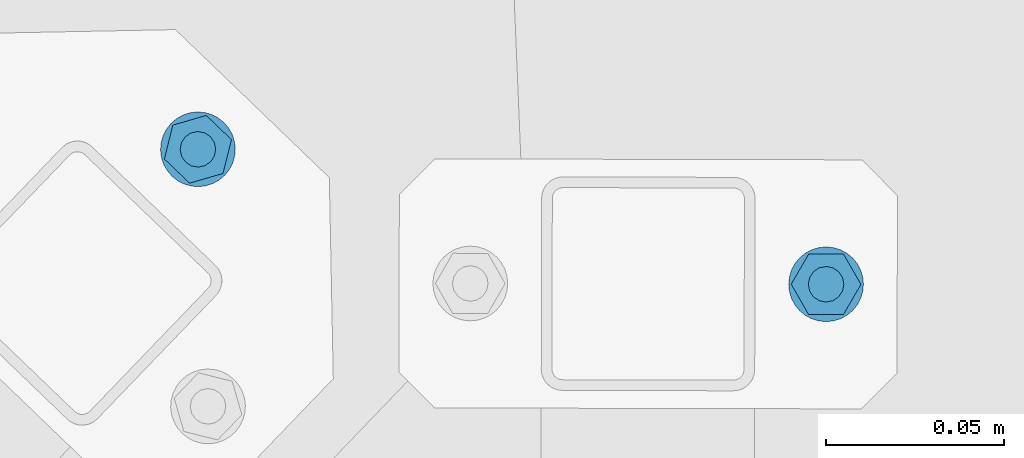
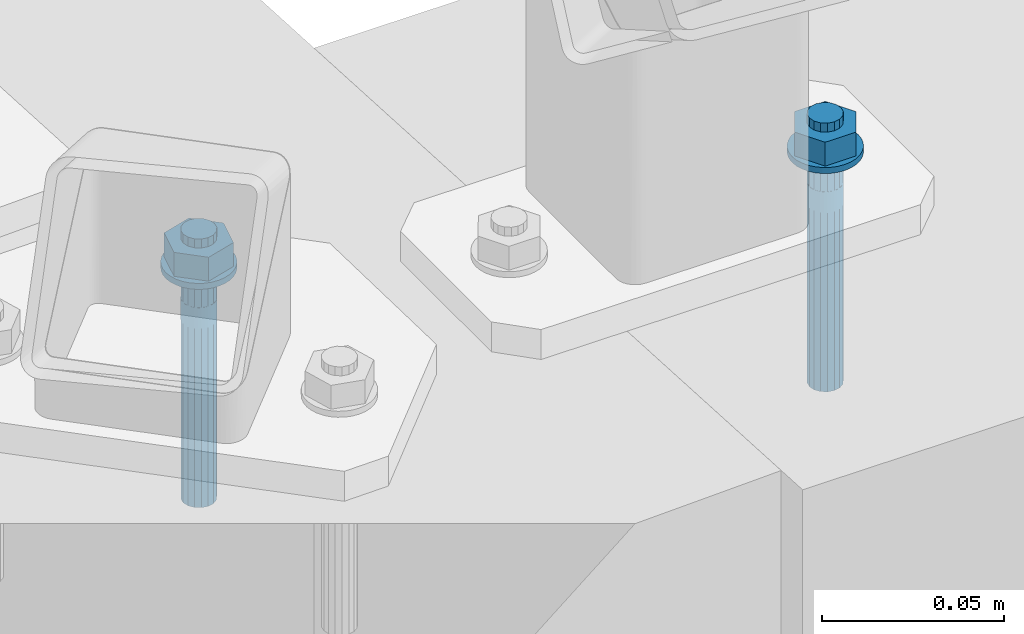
# One storey, part 200 of 288: 2 mechanical fasteners.
"""IFC2X3 building model written with IfcOpenShell, lengths in millimetres."""

from ifc_helpers import new_model, entity, si_unit, converted_unit, origin_with_axes, place, context, project, spatial, faceted_brep, element, save


model = new_model("IFC2X3")

# Units and contexts
model_context = context("Model", 3, precision=1e-09, world=origin_with_axes())
ifc_project = project(units=[si_unit("LENGTHUNIT", "METRE", prefix="MILLI"), si_unit("AREAUNIT", "SQUARE_METRE"), si_unit("VOLUMEUNIT", "CUBIC_METRE"), converted_unit("PLANEANGLEUNIT", "DEGREE", entity("IfcPlaneAngleMeasure", 0.01745329), si_unit("PLANEANGLEUNIT", "RADIAN"), dimensions=[0, 0, 0, 0, 0, 0, 0])], contexts=[model_context])

# Site, building, storey
site_placement = place(None, origin_with_axes())
site = spatial("IfcSite", under=ifc_project, at=site_placement, Name="Remont ?wietlik?w nad MC w NCPP w Opolu", CompositionType="ELEMENT")
building_placement = place(site_placement, origin_with_axes())
building = spatial("IfcBuilding", under=site, at=building_placement, Name="Konstrukcja 1", CompositionType="ELEMENT")
storey_placement = place(building_placement, origin_with_axes())
storey = spatial("IfcBuildingStorey", under=building, at=storey_placement, Name="Default Storey", CompositionType="ELEMENT", Elevation=0.0)

# Mechanical fasteners
mechanical_fastener_1_placement = place(None, origin_with_axes())
element("IfcMechanicalFastener", 1, at=mechanical_fastener_1_placement, inside=storey, ObjectType="-", NominalDiameter=10.0, NominalLength=90.0, context=model_context, shape_type="Brep", body=[
    faceted_brep([(1833.809125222, 1910.677145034, 12.000000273), (1833.809125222, 1910.677145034, 10.000000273), (1835.425703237, 1909.402970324, 10.000000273), (1835.425703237, 1909.402970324, 12.000000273), (1837.259798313, 1908.468657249, 10.000000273), (1837.259798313, 1908.468657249, 12.000000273), (1839.240927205, 1907.910110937, 10.000000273), (1839.240927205, 1907.910110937, 12.000000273), (1841.292956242, 1907.748796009, 10.000000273), (1841.292956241, 1907.748796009, 12.000000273), (1843.337027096, 1907.990911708, 10.000000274), (1843.337027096, 1907.990911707, 12.000000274), (1845.294587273, 1908.627153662, 10.000000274), (1845.294587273, 1908.627153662, 12.000000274), (1847.090408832, 1909.633071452, 10.000000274), (1847.090408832, 1909.633071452, 12.000000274), (1848.655479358, 1910.970008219, 10.000000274), (1848.655479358, 1910.970008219, 12.000000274), (1849.929654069, 1912.586586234, 10.000000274), (1849.929654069, 1912.586586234, 12.000000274), (1850.863967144, 1914.42068131, 10.000000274), (1850.863967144, 1914.42068131, 12.000000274), (1851.422513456, 1916.401810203, 10.000000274), (1851.422513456, 1916.401810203, 12.000000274), (1851.583828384, 1918.453839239, 10.000000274), (1851.583828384, 1918.453839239, 12.000000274), (1851.341712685, 1920.497910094, 10.000000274), (1851.341712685, 1920.497910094, 12.000000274), (1850.70547073, 1922.45547027, 10.000000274), (1850.70547073, 1922.45547027, 12.000000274), (1849.699552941, 1924.25129183, 10.000000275), (1849.699552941, 1924.25129183, 12.000000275), (1848.362616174, 1925.816362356, 10.000000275), (1848.362616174, 1925.816362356, 12.000000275), (1846.746038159, 1927.090537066, 10.000000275), (1846.746038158, 1927.090537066, 12.000000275), (1844.911943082, 1928.024850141, 10.000000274), (1844.911943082, 1928.024850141, 12.000000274), (1842.93081419, 1928.583396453, 10.000000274), (1842.93081419, 1928.583396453, 12.000000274), (1840.878785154, 1928.744711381, 10.000000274), (1840.878785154, 1928.744711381, 12.000000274), (1838.834714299, 1928.502595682, 10.000000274), (1838.834714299, 1928.502595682, 12.000000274), (1836.877154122, 1927.866353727, 10.000000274), (1836.877154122, 1927.866353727, 12.000000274), (1835.081332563, 1926.860435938, 10.000000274), (1835.081332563, 1926.860435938, 12.000000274), (1833.516262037, 1925.523499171, 10.000000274), (1833.516262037, 1925.523499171, 12.000000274), (1832.242087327, 1923.906921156, 10.000000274), (1832.242087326, 1923.906921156, 12.000000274), (1831.307774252, 1922.072826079, 10.000000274), (1831.307774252, 1922.072826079, 12.000000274), (1830.749227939, 1920.091697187, 10.000000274), (1830.749227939, 1920.091697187, 12.000000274), (1830.587913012, 1918.039668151, 10.000000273), (1830.587913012, 1918.039668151, 12.000000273), (1830.83002871, 1915.995597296, 10.000000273), (1830.83002871, 1915.995597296, 12.000000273), (1831.466270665, 1914.038037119, 10.000000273), (1831.466270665, 1914.038037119, 12.000000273), (1832.472188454, 1912.24221556, 10.000000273), (1832.472188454, 1912.24221556, 12.000000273)], [[[0, 1, 2, 3]], [[3, 2, 4, 5]], [[5, 4, 6, 7]], [[7, 6, 8, 9]], [[9, 8, 10, 11]], [[11, 10, 12, 13]], [[13, 12, 14, 15]], [[15, 14, 16, 17]], [[17, 16, 18, 19]], [[19, 18, 20, 21]], [[21, 20, 22, 23]], [[23, 22, 24, 25]], [[25, 24, 26, 27]], [[27, 26, 28, 29]], [[29, 28, 30, 31]], [[31, 30, 32, 33]], [[33, 32, 34, 35]], [[35, 34, 36, 37]], [[37, 36, 38, 39]], [[39, 38, 40, 41]], [[41, 40, 42, 43]], [[43, 42, 44, 45]], [[45, 44, 46, 47]], [[47, 46, 48, 49]], [[49, 48, 50, 51]], [[51, 50, 52, 53]], [[53, 52, 54, 55]], [[55, 54, 56, 57]], [[57, 56, 58, 59]], [[59, 58, 60, 61]], [[61, 60, 62, 63]], [[63, 62, 1, 0]], [[0, 3, 5, 7, 9, 11, 13, 15, 17, 19, 21, 23, 25, 27, 29, 31, 33, 35, 37, 39, 41, 43, 45, 47, 49, 51, 53, 55, 57, 59, 61, 63]], [[1, 62, 60, 58, 56, 54, 52, 50, 48, 46, 44, 42, 40, 38, 36, 34, 32, 30, 28, 26, 24, 22, 20, 18, 16, 14, 12, 10, 8, 6, 4, 2]]]),
    faceted_brep([(1850.500078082, 1920.969380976, 12.000000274), (1850.500078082, 1920.969380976, 20.000000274), (1848.150838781, 1911.455124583, 20.000000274), (1848.150838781, 1911.455124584, 12.000000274), (1838.736631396, 1908.732497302, 20.000000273), (1838.736631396, 1908.732497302, 12.000000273), (1831.671663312, 1915.524126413, 20.000000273), (1831.671663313, 1915.524126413, 12.000000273), (1834.020902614, 1925.038382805, 20.000000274), (1834.020902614, 1925.038382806, 12.000000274), (1843.435109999, 1927.761010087, 20.000000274), (1843.435109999, 1927.761010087, 12.000000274)], [[[0, 1, 2, 3]], [[3, 2, 4, 5]], [[5, 4, 6, 7]], [[7, 6, 8, 9]], [[9, 8, 10, 11]], [[11, 10, 1, 0]], [[4, 2, 1, 10, 8, 6]], [[0, 3, 5, 7, 9, 11]]]),
    faceted_brep([(1837.620753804, 1914.642178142, 23.000000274), (1837.620753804, 1914.642178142, 20.000000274), (1839.263931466, 1913.590517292, 20.000000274), (1839.263931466, 1913.590517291, 23.000000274), (1841.184482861, 1913.247726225, 20.000000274), (1841.184482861, 1913.247726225, 23.000000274), (1843.090021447, 1913.665991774, 20.000000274), (1843.090021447, 1913.665991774, 23.000000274), (1844.69044625, 1914.781636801, 20.000000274), (1844.69044625, 1914.781636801, 23.000000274), (1845.7421071, 1916.424814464, 20.000000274), (1845.7421071, 1916.424814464, 23.000000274), (1846.084898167, 1918.345365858, 20.000000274), (1846.084898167, 1918.345365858, 23.000000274), (1845.666632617, 1920.250904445, 20.000000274), (1845.666632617, 1920.250904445, 23.000000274), (1844.550987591, 1921.851329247, 20.000000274), (1844.55098759, 1921.851329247, 23.000000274), (1842.907809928, 1922.902990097, 20.000000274), (1842.907809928, 1922.902990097, 23.000000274), (1840.987258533, 1923.245781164, 20.000000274), (1840.987258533, 1923.245781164, 23.000000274), (1839.081719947, 1922.827515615, 20.000000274), (1839.081719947, 1922.827515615, 23.000000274), (1837.481295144, 1921.711870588, 20.000000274), (1837.481295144, 1921.711870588, 23.000000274), (1836.429634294, 1920.068692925, 20.000000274), (1836.429634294, 1920.068692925, 23.000000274), (1836.086843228, 1918.148141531, 20.000000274), (1836.086843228, 1918.148141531, 23.000000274), (1836.505108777, 1916.242602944, 20.000000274), (1836.505108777, 1916.242602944, 23.000000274)], [[[0, 1, 2, 3]], [[3, 2, 4, 5]], [[5, 4, 6, 7]], [[7, 6, 8, 9]], [[9, 8, 10, 11]], [[11, 10, 12, 13]], [[13, 12, 14, 15]], [[15, 14, 16, 17]], [[17, 16, 18, 19]], [[19, 18, 20, 21]], [[21, 20, 22, 23]], [[23, 22, 24, 25]], [[25, 24, 26, 27]], [[27, 26, 28, 29]], [[29, 28, 30, 31]], [[31, 30, 1, 0]], [[0, 3, 5, 7, 9, 11, 13, 15, 17, 19, 21, 23, 25, 27, 29, 31]], [[1, 30, 28, 26, 24, 22, 20, 18, 16, 14, 12, 10, 8, 6, 4, 2]]]),
    faceted_brep([(1837.620753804, 1914.642178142, 10.000000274), (1837.620753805, 1914.642178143, 1.8e-08), (1839.263931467, 1913.590517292, 1.8e-08), (1839.263931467, 1913.590517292, 10.000000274), (1841.184482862, 1913.247726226, 1.8e-08), (1841.184482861, 1913.247726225, 10.000000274), (1843.090021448, 1913.665991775, 1.8e-08), (1843.090021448, 1913.665991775, 10.000000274), (1844.690446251, 1914.781636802, 1.8e-08), (1844.69044625, 1914.781636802, 10.000000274), (1845.742107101, 1916.424814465, 1.8e-08), (1845.7421071, 1916.424814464, 10.000000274), (1846.084898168, 1918.345365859, 1.8e-08), (1846.084898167, 1918.345365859, 10.000000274), (1845.666632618, 1920.250904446, 1.8e-08), (1845.666632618, 1920.250904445, 10.000000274), (1844.550987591, 1921.851329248, 1.8e-08), (1844.550987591, 1921.851329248, 10.000000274), (1842.907809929, 1922.902990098, 1.8e-08), (1842.907809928, 1922.902990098, 10.000000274), (1840.987258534, 1923.245781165, 1.8e-08), (1840.987258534, 1923.245781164, 10.000000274), (1839.081719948, 1922.827515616, 1.8e-08), (1839.081719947, 1922.827515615, 10.000000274), (1837.481295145, 1921.711870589, 1.8e-08), (1837.481295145, 1921.711870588, 10.000000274), (1836.429634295, 1920.068692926, 1.8e-08), (1836.429634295, 1920.068692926, 10.000000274), (1836.086843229, 1918.148141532, 1.8e-08), (1836.086843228, 1918.148141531, 10.000000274), (1836.505108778, 1916.242602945, 1.8e-08), (1836.505108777, 1916.242602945, 10.000000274)], [[[0, 1, 2, 3]], [[3, 2, 4, 5]], [[5, 4, 6, 7]], [[7, 6, 8, 9]], [[9, 8, 10, 11]], [[11, 10, 12, 13]], [[13, 12, 14, 15]], [[15, 14, 16, 17]], [[17, 16, 18, 19]], [[19, 18, 20, 21]], [[21, 20, 22, 23]], [[23, 22, 24, 25]], [[25, 24, 26, 27]], [[27, 26, 28, 29]], [[29, 28, 30, 31]], [[31, 30, 1, 0]], [[0, 3, 5, 7, 9, 11, 13, 15, 17, 19, 21, 23, 25, 27, 29, 31]], [[1, 30, 28, 26, 24, 22, 20, 18, 16, 14, 12, 10, 8, 6, 4, 2]]]),
    faceted_brep([(1837.620753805, 1914.642178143, 1.8e-08), (1837.620753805, 1914.642178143, -6.999999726), (1838.39055286, 1914.035428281, -6.999999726), (1838.39055286, 1914.035428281, 1.8e-08), (1839.263931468, 1913.590517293, -6.999999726), (1839.263931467, 1913.590517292, 1.8e-08), (1840.207326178, 1913.324542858, -6.999999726), (1840.207326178, 1913.324542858, 1.8e-08), (1841.184482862, 1913.247726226, -6.999999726), (1841.184482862, 1913.247726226, 1.8e-08), (1842.157849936, 1913.363019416, -6.999999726), (1842.157849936, 1913.363019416, 1.8e-08), (1843.090021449, 1913.665991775, -6.999999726), (1843.090021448, 1913.665991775, 1.8e-08), (1843.945174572, 1914.145000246, -6.999999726), (1843.945174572, 1914.145000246, 1.8e-08), (1844.690446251, 1914.781636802, -6.999999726), (1844.690446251, 1914.781636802, 1.8e-08), (1845.297196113, 1915.551435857, -6.999999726), (1845.297196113, 1915.551435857, 1.8e-08), (1845.742107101, 1916.424814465, -6.999999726), (1845.742107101, 1916.424814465, 1.8e-08), (1846.008081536, 1917.368209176, -6.999999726), (1846.008081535, 1917.368209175, 1.8e-08), (1846.084898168, 1918.345365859, -6.999999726), (1846.084898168, 1918.345365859, 1.8e-08), (1845.969604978, 1919.318732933, -6.999999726), (1845.969604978, 1919.318732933, 1.8e-08), (1845.666632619, 1920.250904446, -6.999999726), (1845.666632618, 1920.250904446, 1.8e-08), (1845.187624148, 1921.106057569, -6.999999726), (1845.187624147, 1921.106057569, 1.8e-08), (1844.550987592, 1921.851329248, -6.999999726), (1844.550987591, 1921.851329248, 1.8e-08), (1843.781188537, 1922.45807911, -6.999999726), (1843.781188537, 1922.45807911, 1.8e-08), (1842.907809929, 1922.902990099, -6.999999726), (1842.907809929, 1922.902990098, 1.8e-08), (1841.964415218, 1923.168964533, -6.999999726), (1841.964415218, 1923.168964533, 1.8e-08), (1840.987258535, 1923.245781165, -6.999999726), (1840.987258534, 1923.245781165, 1.8e-08), (1840.013891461, 1923.130487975, -6.999999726), (1840.013891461, 1923.130487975, 1.8e-08), (1839.081719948, 1922.827515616, -6.999999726), (1839.081719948, 1922.827515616, 1.8e-08), (1838.226566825, 1922.348507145, -6.999999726), (1838.226566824, 1922.348507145, 1.8e-08), (1837.481295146, 1921.711870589, -6.999999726), (1837.481295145, 1921.711870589, 1.8e-08), (1836.874545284, 1920.942071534, -6.999999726), (1836.874545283, 1920.942071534, 1.8e-08), (1836.429634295, 1920.068692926, -6.999999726), (1836.429634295, 1920.068692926, 1.8e-08), (1836.163659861, 1919.125298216, -6.999999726), (1836.163659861, 1919.125298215, 1.8e-08), (1836.086843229, 1918.148141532, -6.999999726), (1836.086843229, 1918.148141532, 1.8e-08), (1836.202136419, 1917.174774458, -6.999999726), (1836.202136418, 1917.174774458, 1.8e-08), (1836.505108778, 1916.242602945, -6.999999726), (1836.505108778, 1916.242602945, 1.8e-08), (1836.984117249, 1915.387449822, -6.999999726), (1836.984117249, 1915.387449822, 1.8e-08)], [[[0, 1, 2, 3]], [[3, 2, 4, 5]], [[5, 4, 6, 7]], [[7, 6, 8, 9]], [[9, 8, 10, 11]], [[11, 10, 12, 13]], [[13, 12, 14, 15]], [[15, 14, 16, 17]], [[17, 16, 18, 19]], [[19, 18, 20, 21]], [[21, 20, 22, 23]], [[23, 22, 24, 25]], [[25, 24, 26, 27]], [[27, 26, 28, 29]], [[29, 28, 30, 31]], [[31, 30, 32, 33]], [[33, 32, 34, 35]], [[35, 34, 36, 37]], [[37, 36, 38, 39]], [[39, 38, 40, 41]], [[41, 40, 42, 43]], [[43, 42, 44, 45]], [[45, 44, 46, 47]], [[47, 46, 48, 49]], [[49, 48, 50, 51]], [[51, 50, 52, 53]], [[53, 52, 54, 55]], [[55, 54, 56, 57]], [[57, 56, 58, 59]], [[59, 58, 60, 61]], [[61, 60, 62, 63]], [[63, 62, 1, 0]], [[0, 3, 5, 7, 9, 11, 13, 15, 17, 19, 21, 23, 25, 27, 29, 31, 33, 35, 37, 39, 41, 43, 45, 47, 49, 51, 53, 55, 57, 59, 61, 63]], [[1, 62, 60, 58, 56, 54, 52, 50, 48, 46, 44, 42, 40, 38, 36, 34, 32, 30, 28, 26, 24, 22, 20, 18, 16, 14, 12, 10, 8, 6, 4, 2]]]),
    faceted_brep([(1837.620753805, 1914.642178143, -6.999999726), (1837.620753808, 1914.642178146, -66.999999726), (1839.26393147, 1913.590517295, -66.999999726), (1839.263931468, 1913.590517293, -6.999999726), (1841.184482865, 1913.247726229, -66.999999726), (1841.184482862, 1913.247726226, -6.999999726), (1843.090021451, 1913.665991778, -66.999999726), (1843.090021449, 1913.665991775, -6.999999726), (1844.690446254, 1914.781636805, -66.999999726), (1844.690446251, 1914.781636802, -6.999999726), (1845.742107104, 1916.424814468, -66.999999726), (1845.742107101, 1916.424814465, -6.999999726), (1846.08489817, 1918.345365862, -66.999999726), (1846.084898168, 1918.345365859, -6.999999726), (1845.666632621, 1920.250904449, -66.999999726), (1845.666632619, 1920.250904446, -6.999999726), (1844.550987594, 1921.851329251, -66.999999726), (1844.550987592, 1921.851329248, -6.999999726), (1842.907809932, 1922.902990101, -66.999999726), (1842.907809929, 1922.902990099, -6.999999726), (1840.987258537, 1923.245781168, -66.999999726), (1840.987258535, 1923.245781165, -6.999999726), (1839.081719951, 1922.827515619, -66.999999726), (1839.081719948, 1922.827515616, -6.999999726), (1837.481295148, 1921.711870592, -66.999999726), (1837.481295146, 1921.711870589, -6.999999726), (1836.429634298, 1920.068692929, -66.999999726), (1836.429634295, 1920.068692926, -6.999999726), (1836.086843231, 1918.148141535, -66.999999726), (1836.086843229, 1918.148141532, -6.999999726), (1836.505108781, 1916.242602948, -66.999999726), (1836.505108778, 1916.242602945, -6.999999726)], [[[0, 1, 2, 3]], [[3, 2, 4, 5]], [[5, 4, 6, 7]], [[7, 6, 8, 9]], [[9, 8, 10, 11]], [[11, 10, 12, 13]], [[13, 12, 14, 15]], [[15, 14, 16, 17]], [[17, 16, 18, 19]], [[19, 18, 20, 21]], [[21, 20, 22, 23]], [[23, 22, 24, 25]], [[25, 24, 26, 27]], [[27, 26, 28, 29]], [[29, 28, 30, 31]], [[31, 30, 1, 0]], [[0, 3, 5, 7, 9, 11, 13, 15, 17, 19, 21, 23, 25, 27, 29, 31]], [[1, 30, 28, 26, 24, 22, 20, 18, 16, 14, 12, 10, 8, 6, 4, 2]]]),
])
mechanical_fastener_2_placement = place(None, origin_with_axes())
element("IfcMechanicalFastener", 2, at=mechanical_fastener_2_placement, inside=storey, ObjectType="Anchor_Bolt", NominalDiameter=10.0, NominalLength=90.0, context=model_context, shape_type="Brep", body=[
    faceted_brep([(2017.659683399, 1890.811323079, 12.000000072), (2017.659683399, 1890.811323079, 10.000000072), (2015.610783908, 1890.614202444, 10.000000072), (2015.610783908, 1890.614202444, 12.000000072), (2013.639709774, 1890.021148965, 10.000000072), (2013.639709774, 1890.021148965, 12.000000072), (2011.822208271, 1889.054953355, 10.000000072), (2011.822208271, 1889.054953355, 12.000000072), (2010.228124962, 1887.752745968, 10.000000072), (2010.228124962, 1887.752745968, 12.000000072), (2008.918719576, 1886.164569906, 10.000000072), (2008.918719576, 1886.164569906, 12.000000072), (2007.944311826, 1884.351457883, 10.000000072), (2007.944311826, 1884.351457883, 12.000000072), (2007.342347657, 1882.383086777, 10.000000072), (2007.342347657, 1882.383086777, 12.000000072), (2007.135960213, 1880.335099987, 10.000000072), (2007.135960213, 1880.335099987, 12.000000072), (2007.333080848, 1878.286200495, 10.000000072), (2007.333080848, 1878.286200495, 12.000000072), (2007.926134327, 1876.315126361, 10.000000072), (2007.926134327, 1876.315126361, 12.000000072), (2008.892329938, 1874.497624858, 10.000000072), (2008.892329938, 1874.497624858, 12.000000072), (2010.194537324, 1872.90354155, 10.000000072), (2010.194537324, 1872.90354155, 12.000000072), (2011.782713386, 1871.594136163, 10.000000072), (2011.782713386, 1871.594136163, 12.000000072), (2013.595825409, 1870.619728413, 10.000000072), (2013.595825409, 1870.619728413, 12.000000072), (2015.564196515, 1870.017764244, 10.000000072), (2015.564196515, 1870.017764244, 12.000000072), (2017.612183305, 1869.8113768, 10.000000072), (2017.612183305, 1869.8113768, 12.000000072), (2019.661082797, 1870.008497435, 10.000000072), (2019.661082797, 1870.008497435, 12.000000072), (2021.632156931, 1870.601550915, 10.000000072), (2021.632156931, 1870.601550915, 12.000000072), (2023.449658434, 1871.567746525, 10.000000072), (2023.449658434, 1871.567746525, 12.000000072), (2025.043741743, 1872.869953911, 10.000000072), (2025.043741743, 1872.869953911, 12.000000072), (2026.353147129, 1874.458129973, 10.000000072), (2026.353147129, 1874.458129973, 12.000000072), (2027.327554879, 1876.271241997, 10.000000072), (2027.327554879, 1876.271241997, 12.000000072), (2027.929519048, 1878.239613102, 10.000000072), (2027.929519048, 1878.239613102, 12.000000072), (2028.135906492, 1880.287599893, 10.000000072), (2028.135906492, 1880.287599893, 12.000000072), (2027.938785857, 1882.336499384, 10.000000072), (2027.938785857, 1882.336499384, 12.000000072), (2027.345732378, 1884.307573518, 10.000000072), (2027.345732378, 1884.307573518, 12.000000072), (2026.379536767, 1886.125075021, 10.000000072), (2026.379536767, 1886.125075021, 12.000000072), (2025.077329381, 1887.71915833, 10.000000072), (2025.077329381, 1887.71915833, 12.000000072), (2023.489153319, 1889.028563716, 10.000000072), (2023.489153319, 1889.028563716, 12.000000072), (2021.676041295, 1890.002971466, 10.000000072), (2021.676041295, 1890.002971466, 12.000000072), (2019.70767019, 1890.604935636, 10.000000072), (2019.70767019, 1890.604935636, 12.000000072)], [[[0, 1, 2, 3]], [[3, 2, 4, 5]], [[5, 4, 6, 7]], [[7, 6, 8, 9]], [[9, 8, 10, 11]], [[11, 10, 12, 13]], [[13, 12, 14, 15]], [[15, 14, 16, 17]], [[17, 16, 18, 19]], [[19, 18, 20, 21]], [[21, 20, 22, 23]], [[23, 22, 24, 25]], [[25, 24, 26, 27]], [[27, 26, 28, 29]], [[29, 28, 30, 31]], [[31, 30, 32, 33]], [[33, 32, 34, 35]], [[35, 34, 36, 37]], [[37, 36, 38, 39]], [[39, 38, 40, 41]], [[41, 40, 42, 43]], [[43, 42, 44, 45]], [[45, 44, 46, 47]], [[47, 46, 48, 49]], [[49, 48, 50, 51]], [[51, 50, 52, 53]], [[53, 52, 54, 55]], [[55, 54, 56, 57]], [[57, 56, 58, 59]], [[59, 58, 60, 61]], [[61, 60, 62, 63]], [[63, 62, 1, 0]], [[0, 3, 5, 7, 9, 11, 13, 15, 17, 19, 21, 23, 25, 27, 29, 31, 33, 35, 37, 39, 41, 43, 45, 47, 49, 51, 53, 55, 57, 59, 61, 63]], [[1, 62, 60, 58, 56, 54, 52, 50, 48, 46, 44, 42, 40, 38, 36, 34, 32, 30, 28, 26, 24, 22, 20, 18, 16, 14, 12, 10, 8, 6, 4, 2]]]),
    faceted_brep([(2012.716748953, 1871.835406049, 12.000000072), (2012.716748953, 1871.835406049, 20.000000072), (2007.835958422, 1880.33351665, 20.000000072), (2007.835958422, 1880.33351665, 12.000000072), (2012.755142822, 1888.809460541, 20.000000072), (2012.755142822, 1888.809460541, 12.000000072), (2022.555117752, 1888.787293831, 20.000000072), (2022.555117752, 1888.787293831, 12.000000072), (2027.435908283, 1880.289183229, 20.000000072), (2027.435908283, 1880.289183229, 12.000000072), (2022.516723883, 1871.813239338, 20.000000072), (2022.516723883, 1871.813239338, 12.000000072)], [[[0, 1, 2, 3]], [[3, 2, 4, 5]], [[5, 4, 6, 7]], [[7, 6, 8, 9]], [[9, 8, 10, 11]], [[11, 10, 1, 0]], [[4, 2, 1, 10, 8, 6]], [[0, 3, 5, 7, 9, 11]]]),
    faceted_brep([(2017.647242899, 1885.311337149, 23.000000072), (2017.647242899, 1885.311337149, 20.000000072), (2015.732969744, 1884.935063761, 20.000000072), (2015.732969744, 1884.935063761, 23.000000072), (2014.108405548, 1883.854871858, 20.000000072), (2014.108405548, 1883.854871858, 23.000000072), (2013.020875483, 1882.235210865, 20.000000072), (2013.020875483, 1882.235210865, 23.000000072), (2012.635946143, 1880.322659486, 20.000000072), (2012.635946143, 1880.322659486, 23.000000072), (2013.012219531, 1878.408386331, 20.000000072), (2013.012219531, 1878.408386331, 23.000000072), (2014.092411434, 1876.783822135, 20.000000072), (2014.092411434, 1876.783822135, 23.000000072), (2015.712072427, 1875.69629207, 20.000000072), (2015.712072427, 1875.69629207, 23.000000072), (2017.624623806, 1875.31136273, 20.000000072), (2017.624623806, 1875.31136273, 23.000000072), (2019.538896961, 1875.687636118, 20.000000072), (2019.538896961, 1875.687636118, 23.000000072), (2021.163461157, 1876.767828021, 20.000000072), (2021.163461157, 1876.767828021, 23.000000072), (2022.250991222, 1878.387489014, 20.000000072), (2022.250991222, 1878.387489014, 23.000000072), (2022.635920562, 1880.300040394, 20.000000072), (2022.635920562, 1880.300040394, 23.000000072), (2022.259647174, 1882.214313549, 20.000000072), (2022.259647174, 1882.214313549, 23.000000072), (2021.179455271, 1883.838877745, 20.000000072), (2021.179455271, 1883.838877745, 23.000000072), (2019.559794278, 1884.926407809, 20.000000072), (2019.559794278, 1884.926407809, 23.000000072)], [[[0, 1, 2, 3]], [[3, 2, 4, 5]], [[5, 4, 6, 7]], [[7, 6, 8, 9]], [[9, 8, 10, 11]], [[11, 10, 12, 13]], [[13, 12, 14, 15]], [[15, 14, 16, 17]], [[17, 16, 18, 19]], [[19, 18, 20, 21]], [[21, 20, 22, 23]], [[23, 22, 24, 25]], [[25, 24, 26, 27]], [[27, 26, 28, 29]], [[29, 28, 30, 31]], [[31, 30, 1, 0]], [[0, 3, 5, 7, 9, 11, 13, 15, 17, 19, 21, 23, 25, 27, 29, 31]], [[1, 30, 28, 26, 24, 22, 20, 18, 16, 14, 12, 10, 8, 6, 4, 2]]]),
    faceted_brep([(2017.647242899, 1885.311337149, 10.000000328), (2017.647242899, 1885.311337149, 7.2e-08), (2015.732969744, 1884.935063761, 7.2e-08), (2015.732969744, 1884.935063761, 10.000000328), (2014.108405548, 1883.854871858, 7.2e-08), (2014.108405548, 1883.854871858, 10.000000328), (2013.020875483, 1882.235210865, 7.2e-08), (2013.020875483, 1882.235210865, 10.000000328), (2012.635946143, 1880.322659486, 7.2e-08), (2012.635946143, 1880.322659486, 10.000000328), (2013.012219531, 1878.408386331, 7.2e-08), (2013.012219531, 1878.408386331, 10.000000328), (2014.092411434, 1876.783822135, 7.2e-08), (2014.092411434, 1876.783822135, 10.000000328), (2015.712072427, 1875.69629207, 7.2e-08), (2015.712072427, 1875.69629207, 10.000000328), (2017.624623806, 1875.31136273, 7.2e-08), (2017.624623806, 1875.31136273, 10.000000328), (2019.538896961, 1875.687636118, 7.2e-08), (2019.538896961, 1875.687636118, 10.000000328), (2021.163461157, 1876.767828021, 7.2e-08), (2021.163461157, 1876.767828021, 10.000000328), (2022.250991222, 1878.387489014, 7.2e-08), (2022.250991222, 1878.387489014, 10.000000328), (2022.635920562, 1880.300040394, 7.2e-08), (2022.635920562, 1880.300040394, 10.000000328), (2022.259647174, 1882.214313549, 7.2e-08), (2022.259647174, 1882.214313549, 10.000000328), (2021.179455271, 1883.838877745, 7.2e-08), (2021.179455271, 1883.838877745, 10.000000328), (2019.559794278, 1884.926407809, 7.2e-08), (2019.559794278, 1884.926407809, 10.000000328)], [[[0, 1, 2, 3]], [[3, 2, 4, 5]], [[5, 4, 6, 7]], [[7, 6, 8, 9]], [[9, 8, 10, 11]], [[11, 10, 12, 13]], [[13, 12, 14, 15]], [[15, 14, 16, 17]], [[17, 16, 18, 19]], [[19, 18, 20, 21]], [[21, 20, 22, 23]], [[23, 22, 24, 25]], [[25, 24, 26, 27]], [[27, 26, 28, 29]], [[29, 28, 30, 31]], [[31, 30, 1, 0]], [[0, 3, 5, 7, 9, 11, 13, 15, 17, 19, 21, 23, 25, 27, 29, 31]], [[1, 30, 28, 26, 24, 22, 20, 18, 16, 14, 12, 10, 8, 6, 4, 2]]]),
    faceted_brep([(2017.647242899, 1885.311337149, -1.83e-07), (2017.647242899, 1885.311337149, -6.999999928), (2016.671576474, 1885.21747018, -6.999999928), (2016.671576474, 1885.21747018, -1.83e-07), (2015.732969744, 1884.935063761, -6.999999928), (2015.732969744, 1884.935063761, -1.83e-07), (2014.867492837, 1884.474970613, -6.999999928), (2014.867492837, 1884.474970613, -1.83e-07), (2014.108405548, 1883.854871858, -6.999999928), (2014.108405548, 1883.854871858, -1.83e-07), (2013.484879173, 1883.098597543, -6.999999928), (2013.484879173, 1883.098597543, -1.83e-07), (2013.020875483, 1882.235210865, -6.999999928), (2013.020875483, 1882.235210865, -1.83e-07), (2012.734225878, 1881.297891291, -6.999999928), (2012.734225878, 1881.297891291, -1.83e-07), (2012.635946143, 1880.322659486, -6.999999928), (2012.635946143, 1880.322659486, -1.83e-07), (2012.729813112, 1879.346993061, -6.999999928), (2012.729813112, 1879.346993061, -1.83e-07), (2013.012219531, 1878.408386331, -6.999999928), (2013.012219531, 1878.408386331, -1.83e-07), (2013.472312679, 1877.542909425, -6.999999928), (2013.472312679, 1877.542909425, -1.83e-07), (2014.092411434, 1876.783822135, -6.999999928), (2014.092411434, 1876.783822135, -1.83e-07), (2014.848685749, 1876.16029576, -6.999999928), (2014.848685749, 1876.16029576, -1.83e-07), (2015.712072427, 1875.69629207, -6.999999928), (2015.712072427, 1875.69629207, -1.83e-07), (2016.649392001, 1875.409642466, -6.999999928), (2016.649392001, 1875.409642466, -1.83e-07), (2017.624623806, 1875.31136273, -6.999999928), (2017.624623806, 1875.31136273, -1.83e-07), (2018.600290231, 1875.4052297, -6.999999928), (2018.600290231, 1875.4052297, -1.83e-07), (2019.538896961, 1875.687636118, -6.999999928), (2019.538896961, 1875.687636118, -1.83e-07), (2020.404373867, 1876.147729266, -6.999999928), (2020.404373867, 1876.147729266, -1.83e-07), (2021.163461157, 1876.767828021, -6.999999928), (2021.163461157, 1876.767828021, -1.83e-07), (2021.786987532, 1877.524102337, -6.999999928), (2021.786987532, 1877.524102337, -1.83e-07), (2022.250991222, 1878.387489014, -6.999999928), (2022.250991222, 1878.387489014, -1.83e-07), (2022.537640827, 1879.324808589, -6.999999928), (2022.537640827, 1879.324808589, -1.83e-07), (2022.635920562, 1880.300040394, -6.999999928), (2022.635920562, 1880.300040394, -1.83e-07), (2022.542053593, 1881.275706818, -6.999999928), (2022.542053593, 1881.275706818, -1.83e-07), (2022.259647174, 1882.214313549, -6.999999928), (2022.259647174, 1882.214313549, -1.83e-07), (2021.799554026, 1883.079790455, -6.999999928), (2021.799554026, 1883.079790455, -1.83e-07), (2021.179455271, 1883.838877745, -6.999999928), (2021.179455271, 1883.838877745, -1.83e-07), (2020.423180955, 1884.462404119, -6.999999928), (2020.423180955, 1884.462404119, -1.83e-07), (2019.559794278, 1884.926407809, -6.999999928), (2019.559794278, 1884.926407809, -1.83e-07), (2018.622474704, 1885.213057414, -6.999999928), (2018.622474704, 1885.213057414, -1.83e-07)], [[[0, 1, 2, 3]], [[3, 2, 4, 5]], [[5, 4, 6, 7]], [[7, 6, 8, 9]], [[9, 8, 10, 11]], [[11, 10, 12, 13]], [[13, 12, 14, 15]], [[15, 14, 16, 17]], [[17, 16, 18, 19]], [[19, 18, 20, 21]], [[21, 20, 22, 23]], [[23, 22, 24, 25]], [[25, 24, 26, 27]], [[27, 26, 28, 29]], [[29, 28, 30, 31]], [[31, 30, 32, 33]], [[33, 32, 34, 35]], [[35, 34, 36, 37]], [[37, 36, 38, 39]], [[39, 38, 40, 41]], [[41, 40, 42, 43]], [[43, 42, 44, 45]], [[45, 44, 46, 47]], [[47, 46, 48, 49]], [[49, 48, 50, 51]], [[51, 50, 52, 53]], [[53, 52, 54, 55]], [[55, 54, 56, 57]], [[57, 56, 58, 59]], [[59, 58, 60, 61]], [[61, 60, 62, 63]], [[63, 62, 1, 0]], [[0, 3, 5, 7, 9, 11, 13, 15, 17, 19, 21, 23, 25, 27, 29, 31, 33, 35, 37, 39, 41, 43, 45, 47, 49, 51, 53, 55, 57, 59, 61, 63]], [[1, 62, 60, 58, 56, 54, 52, 50, 48, 46, 44, 42, 40, 38, 36, 34, 32, 30, 28, 26, 24, 22, 20, 18, 16, 14, 12, 10, 8, 6, 4, 2]]]),
    faceted_brep([(2017.647242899, 1885.311337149, -6.999999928), (2017.647242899, 1885.311337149, -66.999999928), (2015.732969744, 1884.935063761, -66.999999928), (2015.732969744, 1884.935063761, -6.999999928), (2014.108405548, 1883.854871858, -66.999999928), (2014.108405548, 1883.854871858, -6.999999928), (2013.020875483, 1882.235210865, -66.999999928), (2013.020875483, 1882.235210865, -6.999999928), (2012.635946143, 1880.322659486, -66.999999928), (2012.635946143, 1880.322659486, -6.999999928), (2013.012219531, 1878.408386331, -66.999999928), (2013.012219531, 1878.408386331, -6.999999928), (2014.092411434, 1876.783822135, -66.999999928), (2014.092411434, 1876.783822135, -6.999999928), (2015.712072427, 1875.69629207, -66.999999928), (2015.712072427, 1875.69629207, -6.999999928), (2017.624623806, 1875.31136273, -66.999999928), (2017.624623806, 1875.31136273, -6.999999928), (2019.538896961, 1875.687636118, -66.999999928), (2019.538896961, 1875.687636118, -6.999999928), (2021.163461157, 1876.767828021, -66.999999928), (2021.163461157, 1876.767828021, -6.999999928), (2022.250991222, 1878.387489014, -66.999999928), (2022.250991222, 1878.387489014, -6.999999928), (2022.635920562, 1880.300040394, -66.999999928), (2022.635920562, 1880.300040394, -6.999999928), (2022.259647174, 1882.214313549, -66.999999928), (2022.259647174, 1882.214313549, -6.999999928), (2021.179455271, 1883.838877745, -66.999999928), (2021.179455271, 1883.838877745, -6.999999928), (2019.559794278, 1884.926407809, -66.999999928), (2019.559794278, 1884.926407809, -6.999999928)], [[[0, 1, 2, 3]], [[3, 2, 4, 5]], [[5, 4, 6, 7]], [[7, 6, 8, 9]], [[9, 8, 10, 11]], [[11, 10, 12, 13]], [[13, 12, 14, 15]], [[15, 14, 16, 17]], [[17, 16, 18, 19]], [[19, 18, 20, 21]], [[21, 20, 22, 23]], [[23, 22, 24, 25]], [[25, 24, 26, 27]], [[27, 26, 28, 29]], [[29, 28, 30, 31]], [[31, 30, 1, 0]], [[0, 3, 5, 7, 9, 11, 13, 15, 17, 19, 21, 23, 25, 27, 29, 31]], [[1, 30, 28, 26, 24, 22, 20, 18, 16, 14, 12, 10, 8, 6, 4, 2]]]),
])

save(model, "model.ifc")
